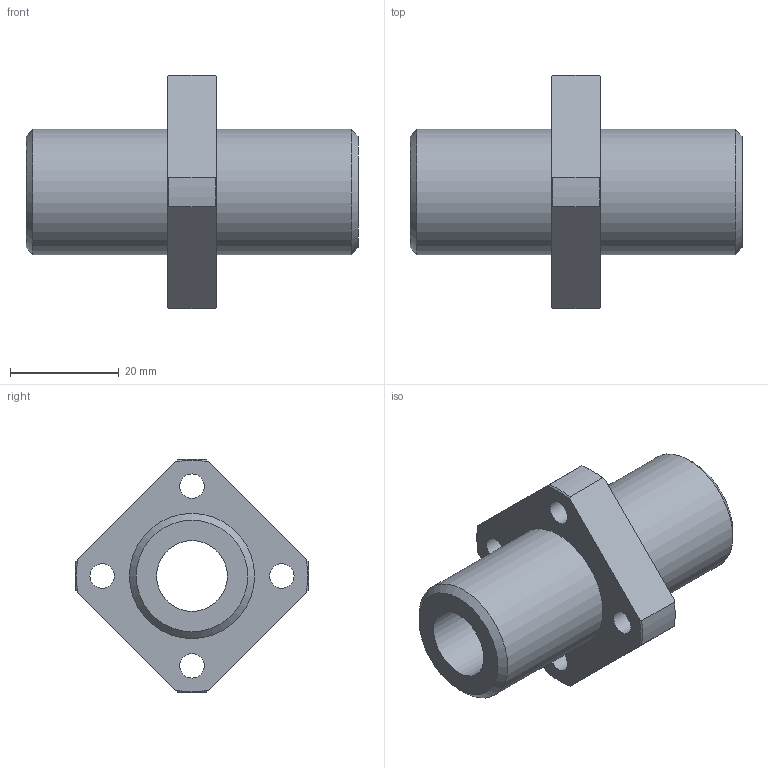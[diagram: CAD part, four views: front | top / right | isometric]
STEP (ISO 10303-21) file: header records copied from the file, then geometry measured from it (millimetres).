
FILE_DESCRIPTION(('STEP AP203'),'1');
FILE_NAME('//192.168.1.1/share/s-4 技術開発/s-4-4_CAD/s-4-4-3_見直し済み/PBC LINEAR修正済み/CFPJ/CFPJ_TOP/CFPJ/CFPJ13.step','2022-03-24T04:02:21',(' '),(' '),'Spatial InterOp 3D',' ',' ');
FILE_SCHEMA(('CONFIG_CONTROL_DESIGN'));
Length unit declared in the file: millimetre
Products named in the file (1): 1
Bounding box: 61 x 42.96 x 42.96 mm (x, y, z)
Volume: 22522.9 mm3; surface area: 9804.1 mm2
Topology: 1 solids, 1 shells, 37 faces, 91 edges, 62 vertices
Faces by surface type: cylinder 15, plane 12, cone 10
Full cylindrical faces by diameter (mm): 4.5 x4, 7.5 x4, 13 x1, 23 x2
Entity records: 1078 total; most frequent: CARTESIAN_POINT 214, DIRECTION 172, ORIENTED_EDGE 144, AXIS2_PLACEMENT_3D 78, EDGE_CURVE 72, EDGE_LOOP 66, VERTEX_POINT 56, FACE_OUTER_BOUND 48
